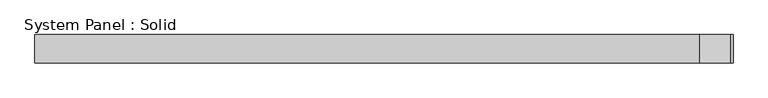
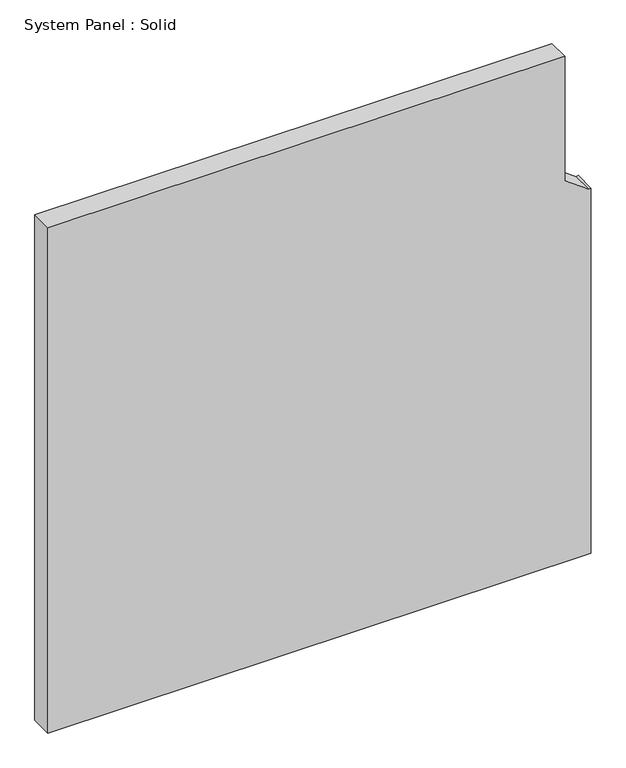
"""IFC4 building model written with IfcOpenShell, lengths in millimetres: plate geometry, System Panel : Solid."""

from ifc_helpers import new_model, si_unit, frame, origin, place, context, project, spatial, polyline, outline, extrude, source, transform, mapped, element, save


def system_panel_solid_49db0aee(model_context):
    return source(origin(), model_context, "Body", "SweptSolid", [
        extrude(outline(polyline([(0.0, -737.0), (0.0, 737.0), (1046.4703674, 737.0), (1044.7399628, 731.8072912), (1092.1754932, 666.0), (1449.0, 666.0), (1449.0, -737.0), (0.0, -737.0)])), frame((0.0, -10.5, 0.0), z_axis=(0.0, 1.0, 0.0), x_axis=(0.0, 0.0, 1.0)), (0.0, 0.0, 1.0), 60.0),
    ])


if __name__ == "__main__":
    model = new_model("IFC4")
    model_context = context("Model", 3, world=origin())
    ifc_project = project(units=[si_unit("LENGTHUNIT", "METRE", prefix="MILLI")], contexts=[model_context])
    site = spatial("IfcSite", under=ifc_project)
    building = spatial("IfcBuilding", under=site)
    placement = place(None, origin())
    system_panel_solid_shape = system_panel_solid_49db0aee(model_context)
    element("IfcPlate", 1, ObjectType="System Panel : Solid", at=placement, inside=building, context=model_context, shape_type="MappedRepresentation", body=[
        mapped(system_panel_solid_shape, transform((0.0, 0.0, 0.0), x_axis=(1.0, 0.0, 0.0), y_axis=(0.0, 1.0, 0.0), z_axis=(0.0, 0.0, 1.0))),
    ])
    save(model, "model.ifc")
